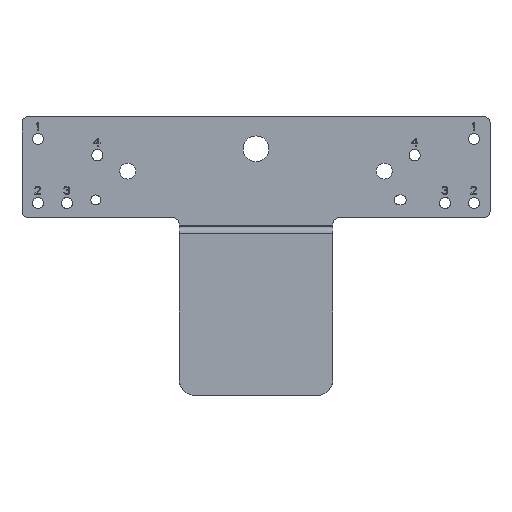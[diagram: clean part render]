
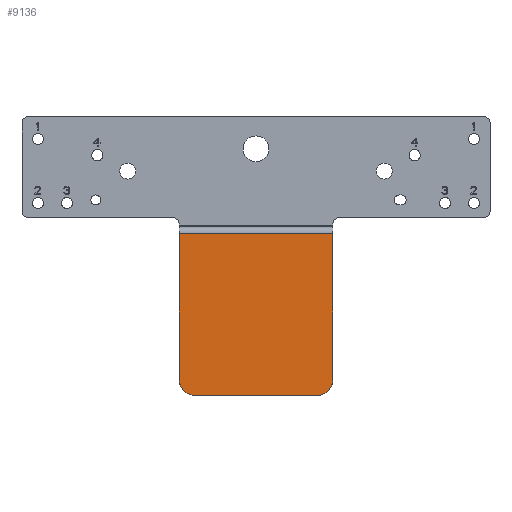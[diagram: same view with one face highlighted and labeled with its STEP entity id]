
A CAD part, top view. The second image highlights one B-rep face of the part: STEP entity #9136.
In plain terms, the highlighted planar face has unit normal (0, 0, 1).
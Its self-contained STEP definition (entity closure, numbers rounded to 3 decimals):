
#3325=CARTESIAN_POINT('',(19.,-55.,7.));
#3326=DIRECTION('',(0.,0.,1.));
#3327=DIRECTION('',(0.,-1.,0.));
#3328=AXIS2_PLACEMENT_3D('',#3325,#3326,#3327);
#3330=CARTESIAN_POINT('',(-19.,-55.,7.));
#3331=DIRECTION('',(0.,0.,1.));
#3332=DIRECTION('',(-1.,0.,0.));
#3333=AXIS2_PLACEMENT_3D('',#3330,#3331,#3332);
#3335=DIRECTION('',(-1.,0.,0.));
#3336=VECTOR('',#3335,48.);
#3337=CARTESIAN_POINT('',(24.,-9.5,7.));
#3338=LINE('',#3337,#3336);
#3351=DIRECTION('',(-1.,0.,0.));
#3352=VECTOR('',#3351,38.);
#3353=CARTESIAN_POINT('',(19.,-60.,7.));
#3354=LINE('',#3353,#3352);
#3373=DIRECTION('',(0.,-1.,0.));
#3374=VECTOR('',#3373,45.5);
#3375=CARTESIAN_POINT('',(-24.,-9.5,7.));
#3376=LINE('',#3375,#3374);
#3381=DIRECTION('',(0.,-1.,0.));
#3382=VECTOR('',#3381,45.5);
#3383=CARTESIAN_POINT('',(24.,-9.5,7.));
#3384=LINE('',#3383,#3382);
#3423=CARTESIAN_POINT('',(24.,-9.5,7.));
#3424=VERTEX_POINT('',#3423);
#3429=CARTESIAN_POINT('',(-24.,-9.5,7.));
#3430=VERTEX_POINT('',#3429);
#3579=CARTESIAN_POINT('',(19.,-60.,7.));
#3580=CARTESIAN_POINT('',(24.,-55.,7.));
#3581=VERTEX_POINT('',#3579);
#3582=VERTEX_POINT('',#3580);
#3589=CARTESIAN_POINT('',(-24.,-55.,7.));
#3590=CARTESIAN_POINT('',(-19.,-60.,7.));
#3591=VERTEX_POINT('',#3589);
#3592=VERTEX_POINT('',#3590);
#9119=CARTESIAN_POINT('',(24.,-9.5,7.));
#9120=DIRECTION('',(0.,0.,1.));
#9121=DIRECTION('',(0.,-1.,0.));
#9122=AXIS2_PLACEMENT_3D('',#9119,#9120,#9121);
#9123=PLANE('',#9122);
#9124=ORIENTED_EDGE('',*,*,#9107,.F.);
#9126=ORIENTED_EDGE('',*,*,#9125,.T.);
#9128=ORIENTED_EDGE('',*,*,#9127,.F.);
#9130=ORIENTED_EDGE('',*,*,#9129,.F.);
#9131=ORIENTED_EDGE('',*,*,#9049,.F.);
#9133=ORIENTED_EDGE('',*,*,#9132,.T.);
#9134=EDGE_LOOP('',(#9124,#9126,#9128,#9130,#9131,#9133));
#9135=FACE_OUTER_BOUND('',#9134,.F.);
#3329=CIRCLE('',#3328,5.);
#3334=CIRCLE('',#3333,5.);
#9049=EDGE_CURVE('',#3424,#3430,#3338,.T.);
#9107=EDGE_CURVE('',#3581,#3582,#3329,.T.);
#9125=EDGE_CURVE('',#3581,#3592,#3354,.T.);
#9127=EDGE_CURVE('',#3591,#3592,#3334,.T.);
#9129=EDGE_CURVE('',#3430,#3591,#3376,.T.);
#9132=EDGE_CURVE('',#3424,#3582,#3384,.T.);
#9136=ADVANCED_FACE('',(#9135),#9123,.T.);
